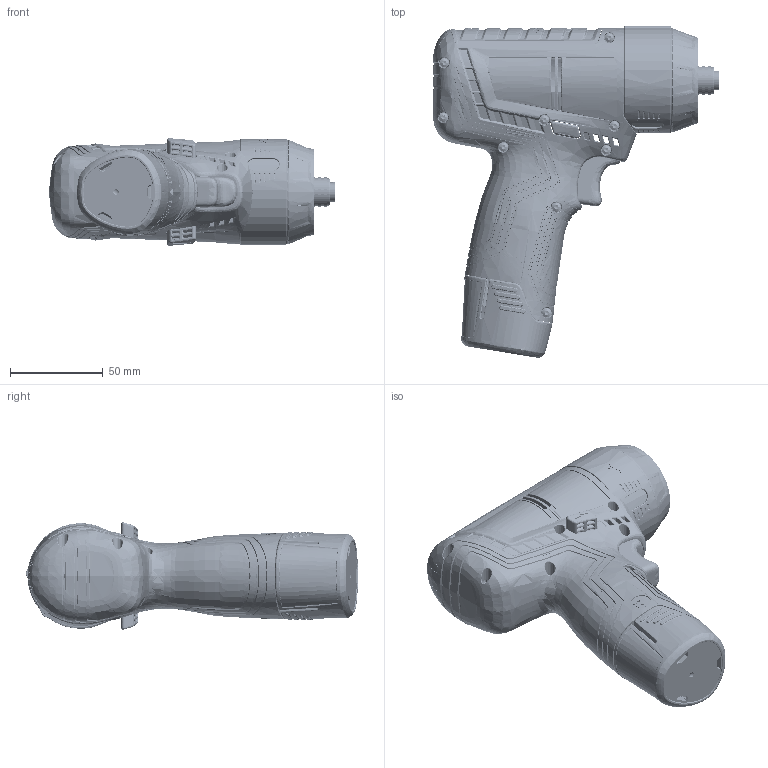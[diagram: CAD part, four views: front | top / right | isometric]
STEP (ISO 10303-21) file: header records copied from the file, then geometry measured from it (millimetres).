
FILE_DESCRIPTION((''),'2;1');
FILE_NAME('3602D96400_ASM','2020-10-22T07:20:50',('LEM2MT'),(''),'CREO PARAMETRIC BY PTC INC, 2018190','CREO PARAMETRIC BY PTC INC, 2018190','');
FILE_SCHEMA(('AUTOMOTIVE_DESIGN { 1 0 10303 214 1 1 1 1 }'));
Products named in the file (58): 3602D96400_SKEL; 3605105053_SKEL0001; 3605105058-100; 3605105058-200; 3604460193; 3604460194; 3605105053_ASM; 3605105055; 3605105055_ASM; 3604460195; 3605105057; 3607030495_SKEL1; 3607030495_100_ASM; 3607030495_200_SKEL; 3605106122; 3605106122_ASM; 3600905085-01; 3600905085-02; 3600905085-03; 3600905085-04; 3600905085-05; 3600905085_ASM; 3606337257_ASM; 3607030495_400_SKEL0001; 3601038054; 3600100104; 3607030495_300_ASM; 3600134019; 3600106034; 3607030495_400_ASM; 3607030495_200_ASM; 3607030495_SWF_SKEL; 3606337253; 2609110983; 2609110981; 2609110982; 2609110984; 2609110985; 3600400038; 3607030495_SWF_ASM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
Assembly tree (80 placements, depth 6):
  3602D96400_ASM
    3602D96400_SKEL
    3605105053_ASM
      3605105053_SKEL0001
      3605105058-100
      3605105058-200
      3604460193
      3604460194
    3605105055_ASM
      3605105055
    3604460195
    3605105057
    3607030495_ASM
      3607030495_SKEL1
      3607030495_100_ASM
      3607030495_200_ASM
        3607030495_200_SKEL
        3605106122_ASM
          3605106122
        3600905085_ASM
          3600905085-01
          3600905085-02
          3600905085-03  x11
          3600905085-04  x2
          3600905085-05  x2
        3606337257_ASM
        3607030495_400_ASM
          3607030495_400_SKEL0001
          3607030495_300_ASM
            3601038054
            3600100104
          3600134019
          3600106034
      3607030495_SWF_ASM
        3607030495_SWF_SKEL
        3606337253
        2609110983
        2609110981
        2609110982
        2609110984
        2609110985
        3600400038
    3605105056_ASM
      3605105056
    3601106062
    3601099006  x3
    2609918183_10V8_BEU_ASM
      2607336517_DUMMY
    1600A023EF
    2607202377_ASM
      2607202377_SKEL0001
      2607202298_ASM  x2
        2607202298
        2607202298_010
      2607202275-RIB-MA
    2609110883  x9
    2609110835_IW
    2609110537_IW
Bounding box: 154.22 x 179.18 x 58.04 mm (x, y, z)
Volume: 210213.7 mm3; surface area: 229795 mm2
Topology: 56 solids, 56 shells, 13762 faces, 35474 edges, 22056 vertices
Faces by surface type: bspline 5217, plane 4063, cylinder 2487, cone 620, torus 547, sphere 450, extrusion 366, revolution 12
Entity records: 1003121 total; most frequent: CARTESIAN_POINT 613718, ORIENTED_EDGE 61180, PRESENTATION_STYLE_ASSIGNMENT 37521, DIRECTION 36247, STYLED_ITEM 33689, CURVE_STYLE 30891, EDGE_CURVE 30590, VERTEX_POINT 18957
